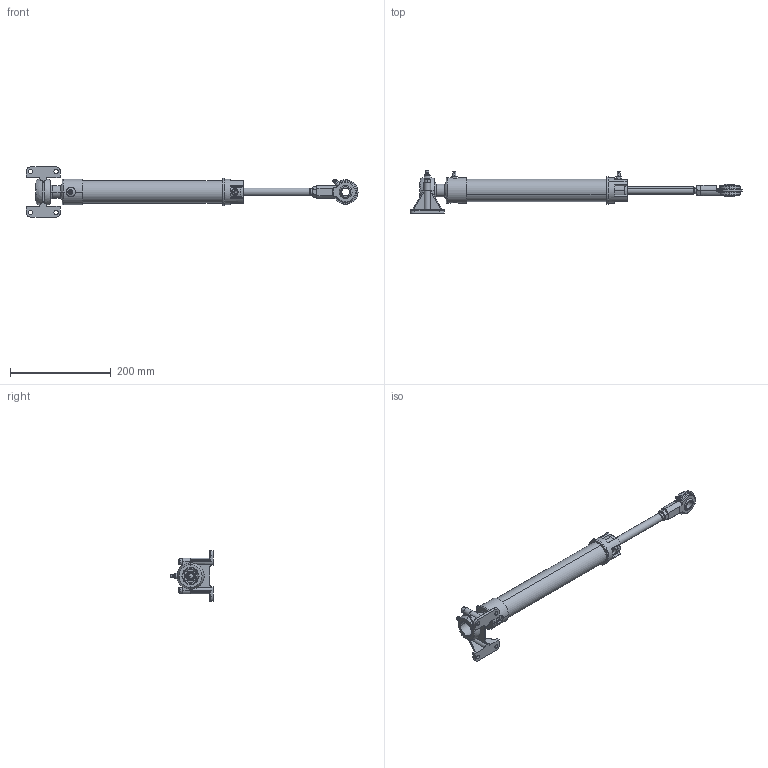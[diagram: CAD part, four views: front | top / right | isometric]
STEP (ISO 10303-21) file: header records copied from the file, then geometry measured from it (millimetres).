
FILE_DESCRIPTION (( 'STEP AP214' ), '1' );
FILE_NAME ('7040-U10.STEP', '2019-03-20T17:21:44', ( '' ), ( '' ), 'SwSTEP 2.0', 'SolidWorks 2017', '' );
FILE_SCHEMA (( 'AUTOMOTIVE_DESIGN' ));
Length unit declared in the file: inch
Products named in the file (1): 7040-U10
Bounding box: 659.12 x 83.84 x 100.33 mm (x, y, z)
Surface area: 130904.3 mm2 (no closed solid volume)
Topology: 0 solids, 19 shells, 419 faces, 1225 edges, 789 vertices
Faces by surface type: cylinder 147, plane 144, torus 62, cone 45, sphere 17, bspline 4
Entity records: 20980 total; most frequent: CARTESIAN_POINT 4690, DIRECTION 2326, ORIENTED_EDGE 2161, EDGE_CURVE 1197, AXIS2_PLACEMENT_3D 939, VERTEX_POINT 782, CIRCLE 523, EDGE_LOOP 464
